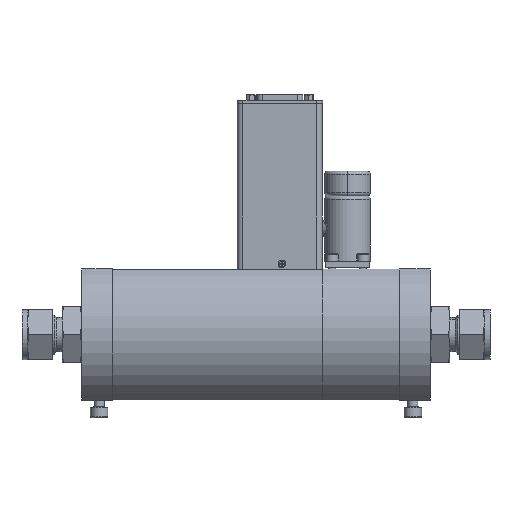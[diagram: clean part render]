
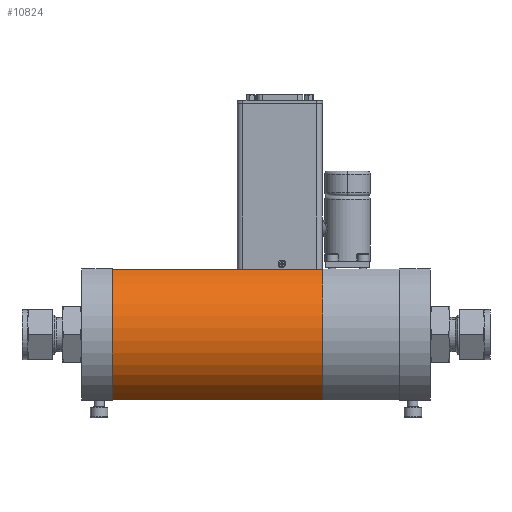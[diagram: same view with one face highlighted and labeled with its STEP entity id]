
A CAD part, front view. The second image highlights one B-rep face of the part: STEP entity #10824.
In plain terms, the highlighted cylindrical face has radius 42 mm (diameter 84 mm), a partial arc.
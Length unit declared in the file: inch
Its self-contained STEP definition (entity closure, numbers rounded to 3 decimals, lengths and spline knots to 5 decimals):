
#2774 = EDGE_LOOP ( 'NONE', ( #25530, #37574, #40382, #33832 ) ) ;
#5374 = EDGE_CURVE ( 'NONE', #29989, #18640, #40395, .T. ) ;
#6970 = DIRECTION ( 'NONE',  ( -1., 0., 0. ) ) ;
#7483 = CARTESIAN_POINT ( 'NONE',  ( -2.72824, -0.02996, 1.485 ) ) ;
#7655 = EDGE_CURVE ( 'NONE', #28614, #32411, #18520, .T. ) ;
#8993 = DIRECTION ( 'NONE',  ( 0., 0., 1. ) ) ;
#10824 = ADVANCED_FACE ( 'NONE', ( #33979 ), #27256, .T. ) ;
#15953 = CARTESIAN_POINT ( 'NONE',  ( 1.99617, 0.73011, 0.0165 ) ) ;
#16515 = VECTOR ( 'NONE', #6970, 39.37008 ) ;
#18520 = LINE ( 'NONE', #33194, #16515 ) ;
#18640 = VERTEX_POINT ( 'NONE', #20380 ) ;
#18665 = CIRCLE ( 'NONE', #35546, 1.65354 ) ;
#20380 = CARTESIAN_POINT ( 'NONE',  ( 1.99617, -0.02996, 1.485 ) ) ;
#21660 = DIRECTION ( 'NONE',  ( 0., 0., 1. ) ) ;
#21787 = EDGE_CURVE ( 'NONE', #28614, #18640, #18665, .T. ) ;
#25455 = AXIS2_PLACEMENT_3D ( 'NONE', #27480, #41886, #8993 ) ;
#25462 = CARTESIAN_POINT ( 'NONE',  ( -2.72824, -0.02996, -1.45201 ) ) ;
#25530 = ORIENTED_EDGE ( 'NONE', *, *, #7655, .F. ) ;
#26167 = VECTOR ( 'NONE', #26505, 39.37008 ) ;
#26505 = DIRECTION ( 'NONE',  ( 1., 0., 0. ) ) ;
#27256 = CYLINDRICAL_SURFACE ( 'NONE', #25455, 1.65354 ) ;
#27480 = CARTESIAN_POINT ( 'NONE',  ( -2.72824, 0.73011, 0.0165 ) ) ;
#28614 = VERTEX_POINT ( 'NONE', #34626 ) ;
#29912 = CIRCLE ( 'NONE', #44451, 1.65354 ) ;
#29989 = VERTEX_POINT ( 'NONE', #34358 ) ;
#32267 = DIRECTION ( 'NONE',  ( 1., 0., 0. ) ) ;
#32411 = VERTEX_POINT ( 'NONE', #25462 ) ;
#33194 = CARTESIAN_POINT ( 'NONE',  ( -2.72824, -0.02996, -1.45201 ) ) ;
#33832 = ORIENTED_EDGE ( 'NONE', *, *, #40615, .T. ) ;
#33979 = FACE_OUTER_BOUND ( 'NONE', #2774, .T. ) ;
#34358 = CARTESIAN_POINT ( 'NONE',  ( -2.72824, -0.02996, 1.485 ) ) ;
#34626 = CARTESIAN_POINT ( 'NONE',  ( 1.99617, -0.02996, -1.45201 ) ) ;
#35546 = AXIS2_PLACEMENT_3D ( 'NONE', #15953, #45693, #45432 ) ;
#37574 = ORIENTED_EDGE ( 'NONE', *, *, #21787, .T. ) ;
#40382 = ORIENTED_EDGE ( 'NONE', *, *, #5374, .F. ) ;
#40395 = LINE ( 'NONE', #7483, #26167 ) ;
#40615 = EDGE_CURVE ( 'NONE', #29989, #32411, #29912, .T. ) ;
#41886 = DIRECTION ( 'NONE',  ( 1., 0., 0. ) ) ;
#44451 = AXIS2_PLACEMENT_3D ( 'NONE', #47068, #32267, #21660 ) ;
#45432 = DIRECTION ( 'NONE',  ( 0., 0., -1. ) ) ;
#45693 = DIRECTION ( 'NONE',  ( -1., 0., 0. ) ) ;
#47068 = CARTESIAN_POINT ( 'NONE',  ( -2.72824, 0.73011, 0.0165 ) ) ;
